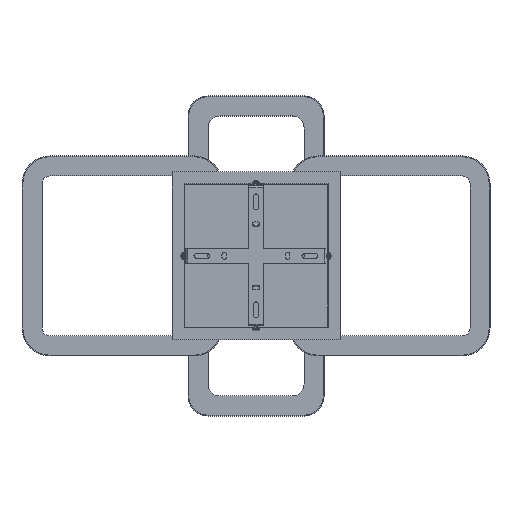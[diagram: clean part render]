
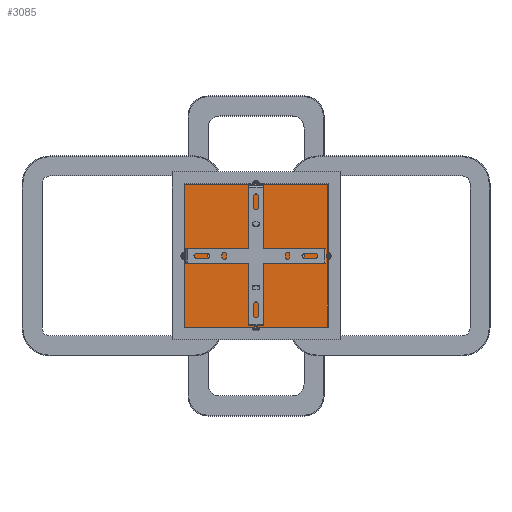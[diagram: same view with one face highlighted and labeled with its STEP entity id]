
A CAD part, top view. The second image highlights one B-rep face of the part: STEP entity #3085.
In plain terms, the highlighted planar face has unit normal (0, 0, 1).
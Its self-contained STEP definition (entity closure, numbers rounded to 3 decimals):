
#626=LINE('',#31995,#1446);
#636=LINE('',#32031,#1456);
#638=LINE('',#32035,#1458);
#640=LINE('',#32039,#1460);
#1446=VECTOR('',#13131,1.);
#1456=VECTOR('',#13159,1.);
#1458=VECTOR('',#13163,1.);
#1460=VECTOR('',#13167,1.);
#2200=FACE_OUTER_BOUND('',#4322,.T.);
#2615=PLANE('',#11070);
#3085=ADVANCED_FACE('',(#2200),#2615,.T.);
#4322=EDGE_LOOP('',(#6175,#6176,#6177,#6178));
#6175=ORIENTED_EDGE('',*,*,#9294,.T.);
#6176=ORIENTED_EDGE('',*,*,#9276,.T.);
#6177=ORIENTED_EDGE('',*,*,#9298,.T.);
#6178=ORIENTED_EDGE('',*,*,#9296,.T.);
#8067=VERTEX_POINT('',#31994);
#8068=VERTEX_POINT('',#31996);
#8085=VERTEX_POINT('',#32032);
#8086=VERTEX_POINT('',#32036);
#9276=EDGE_CURVE('',#8068,#8067,#626,.T.);
#9294=EDGE_CURVE('',#8085,#8068,#636,.T.);
#9296=EDGE_CURVE('',#8086,#8085,#638,.T.);
#9298=EDGE_CURVE('',#8067,#8086,#640,.T.);
#11070=AXIS2_PLACEMENT_3D('',#32041,#13170,#13171);
#13131=DIRECTION('',(1.,0.,0.));
#13159=DIRECTION('',(0.,-1.,0.));
#13163=DIRECTION('',(-1.,0.,0.));
#13167=DIRECTION('',(0.,1.,0.));
#13170=DIRECTION('',(0.,0.,1.));
#13171=DIRECTION('',(1.,0.,0.));
#31994=CARTESIAN_POINT('',(89.,-89.,0.));
#31995=CARTESIAN_POINT('',(0.,-89.,0.));
#31996=CARTESIAN_POINT('',(-89.,-89.,0.));
#32031=CARTESIAN_POINT('',(-89.,0.,0.));
#32032=CARTESIAN_POINT('',(-89.,89.,0.));
#32035=CARTESIAN_POINT('',(0.,89.,0.));
#32036=CARTESIAN_POINT('',(89.,89.,0.));
#32039=CARTESIAN_POINT('',(89.,0.,0.));
#32041=CARTESIAN_POINT('',(0.,0.,0.));
